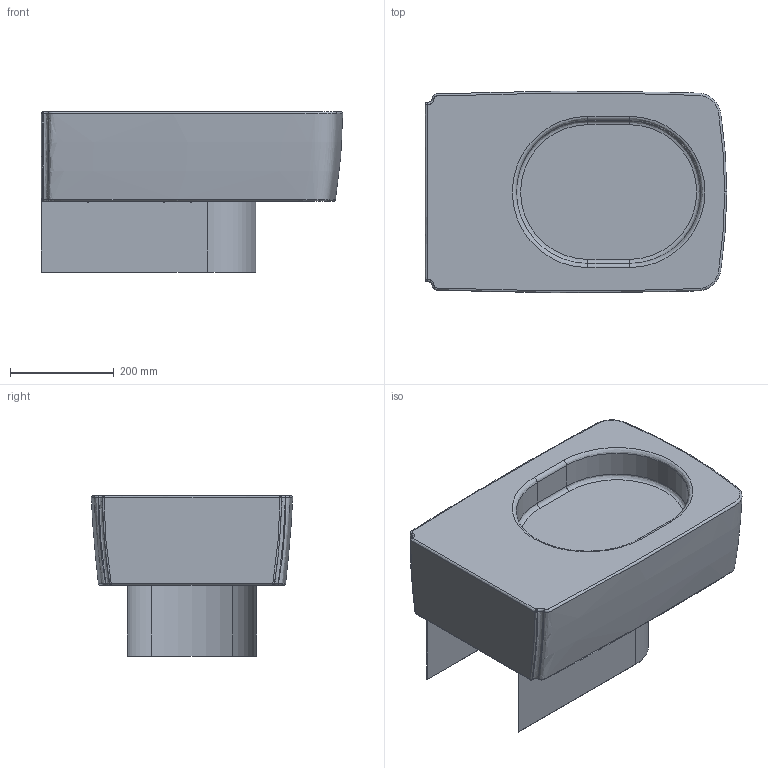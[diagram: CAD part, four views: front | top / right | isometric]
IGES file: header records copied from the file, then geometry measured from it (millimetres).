
Start section:  PTC IGES file: cw512y_with_cover.igs
Global section: file name: cw512y_with_cover.igs; native system: Creo Parametric by Parametric Technology Corporation; preprocessor: 2013050; author: Uporabnik; organization: Unknown; date: 20140206.140902; units: millimetre
Bounding box: 581.96 x 388.88 x 310.04 mm (x, y, z)
Volume: 31541806.4 mm3; surface area: 1061695.2 mm2
Topology: 1 solids, 1 shells, 85 faces, 223 edges, 134 vertices
Faces by surface type: bspline 50, revolution 35
